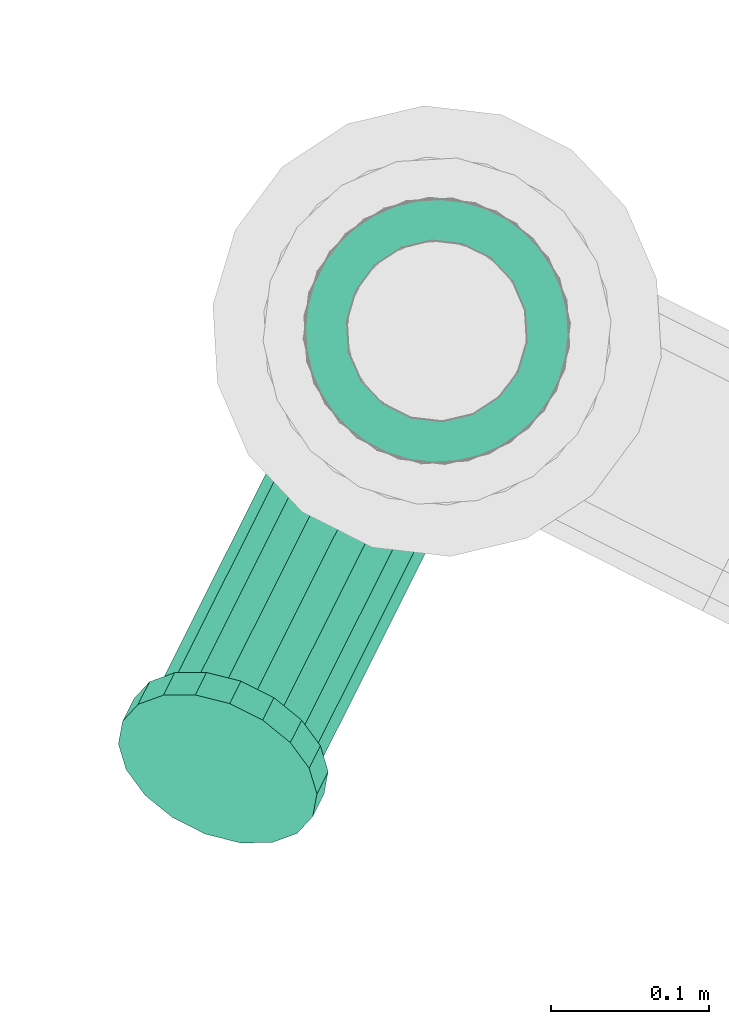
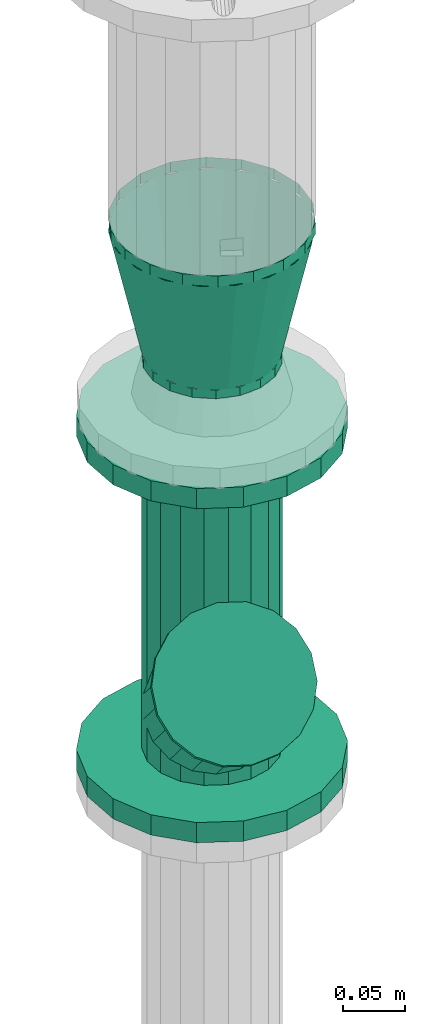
# One storey, part 65 of 152: 1 distribution control element, 1 flow fitting.
"""IFC2X3 building model written with IfcOpenShell, lengths in metres."""

from ifc_helpers import new_model, si_unit, derived_unit, direction, frame, origin, place, context, subcontext, project, spatial, face_set, surface_model, source, transform, mapped, material, type_object, type_shapes, element, save


model = new_model("IFC2X3")

# Units and contexts
model_context = context("Model", 3, precision=5.2338327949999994e-05, world=origin(), true_north=direction((0.0, 1.0)))
body_context = subcontext(model_context, "Body", "Model", "MODEL_VIEW")
ifc_project = project(units=[si_unit("LENGTHUNIT", "METRE"), si_unit("AREAUNIT", "SQUARE_METRE"), si_unit("VOLUMEUNIT", "CUBIC_METRE"), si_unit("MASSUNIT", "GRAM", prefix="KILO"), si_unit("PLANEANGLEUNIT", "RADIAN"), derived_unit("THERMALTRANSMITTANCEUNIT", [(si_unit("MASSUNIT", "GRAM", prefix="KILO"), 1), (si_unit("THERMODYNAMICTEMPERATUREUNIT", "KELVIN"), -1), (si_unit("TIMEUNIT", "SECOND"), -3)])], contexts=[model_context])

# Site, building, storey
site_placement = place(None, frame((0.0, 0.0, 0.0), z_axis=(0.0, 0.0, 1.0), x_axis=(0.8939966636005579, -0.4480736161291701, 0.0)))
site = spatial("IfcSite", under=ifc_project, at=site_placement, Name="Default", CompositionType="ELEMENT")
building_placement = place(site_placement, origin())
building = spatial("IfcBuilding", under=site, at=building_placement, CompositionType="ELEMENT")
storey_placement = place(building_placement, frame((0.0, 0.0, 2.7499999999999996)))
storey = spatial("IfcBuildingStorey", under=building, at=storey_placement, Name="1. Obergeschoss", CompositionType="ELEMENT", Elevation=2.7499999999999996)

# Flow fitting
ifc_material = material(Name="IfcSurfaceStyle #1741")
distribution_element_type_1 = type_object("IfcDistributionElementType", Name="Übergangsstück 307836:Übergangsstück 307836", material=ifc_material)
shared_shape_1 = source(origin(), body_context, "Body", "SurfaceModel", [
    surface_model("IfcFaceBasedSurfaceModel", [(20.35098007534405, 8.394133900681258, 3.915870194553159), (20.370526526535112, 8.397580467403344, 3.915870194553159), (20.370526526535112, 8.397580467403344, 3.924489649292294), (20.35098007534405, 8.394133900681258, 3.924489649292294), (20.387715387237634, 8.407504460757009, 3.915870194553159), (20.387715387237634, 8.407504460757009, 3.924489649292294), (20.40047342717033, 8.42270890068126, 3.915870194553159), (20.40047342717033, 8.42270890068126, 3.924489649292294), (20.407261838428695, 8.441359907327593, 3.915870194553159), (20.407261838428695, 8.441359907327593, 3.924489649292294), (20.407261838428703, 8.461207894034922, 3.915870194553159), (20.407261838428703, 8.461207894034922, 3.924489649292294), (20.40047342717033, 8.479858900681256, 3.915870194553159), (20.40047342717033, 8.479858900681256, 3.924489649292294), (20.387715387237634, 8.49506334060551, 3.915870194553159), (20.387715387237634, 8.49506334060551, 3.924489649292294), (20.370526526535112, 8.504987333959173, 3.915870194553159), (20.370526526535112, 8.504987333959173, 3.924489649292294), (20.35098007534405, 8.508433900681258, 3.915870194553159), (20.35098007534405, 8.508433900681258, 3.924489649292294), (20.33143362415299, 8.504987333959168, 3.915870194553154), (20.33143362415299, 8.504987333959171, 3.9244896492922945), (20.31424476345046, 8.495063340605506, 3.9158701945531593), (20.31424476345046, 8.495063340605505, 3.9244896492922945), (20.30148672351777, 8.479858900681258, 3.915870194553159), (20.30148672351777, 8.479858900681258, 3.924489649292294), (20.2946983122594, 8.461207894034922, 3.915870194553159), (20.2946983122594, 8.461207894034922, 3.924489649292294), (20.2946983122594, 8.441359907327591, 3.915870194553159), (20.2946983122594, 8.441359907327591, 3.924489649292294), (20.301486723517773, 8.42270890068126, 3.915870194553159), (20.301486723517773, 8.42270890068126, 3.924489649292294), (20.31424476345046, 8.407504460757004, 3.915870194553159), (20.31424476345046, 8.407504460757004, 3.924489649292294), (20.33143362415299, 8.39758046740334, 3.915870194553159), (20.33143362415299, 8.39758046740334, 3.924489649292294), (20.408130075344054, 8.45128390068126, 3.9244896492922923), (20.404683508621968, 8.470830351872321, 3.9244896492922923), (20.43005520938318, 8.480064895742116, 4.0454109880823), (20.43513007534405, 8.451283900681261, 4.045410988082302), (20.394759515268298, 8.488019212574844, 3.924489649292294), (20.41544271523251, 8.505374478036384, 4.045410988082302), (20.379555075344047, 8.500777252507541, 3.9244896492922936), (20.393055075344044, 8.52415993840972, 4.045410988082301), (20.36090406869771, 8.507565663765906, 3.924489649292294), (20.365592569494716, 8.534155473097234, 4.045410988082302), (20.341056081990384, 8.507565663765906, 3.924489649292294), (20.33636758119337, 8.534155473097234, 4.045410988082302), (20.32240507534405, 8.500777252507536, 3.9244896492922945), (20.30890507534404, 8.524159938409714, 4.045410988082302), (20.3072006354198, 8.488019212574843, 3.924489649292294), (20.286517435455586, 8.50537447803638, 4.045410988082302), (20.29727664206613, 8.47083035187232, 3.9244896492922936), (20.27190494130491, 8.48006489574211, 4.045410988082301), (20.29383007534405, 8.451283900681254, 3.9244896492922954), (20.266830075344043, 8.451283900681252, 4.0454109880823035), (20.297276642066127, 8.431737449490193, 3.9244896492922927), (20.27190494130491, 8.422502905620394, 4.045410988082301), (20.307200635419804, 8.414548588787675, 3.924489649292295), (20.28651743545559, 8.397193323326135, 4.0454109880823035), (20.32240507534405, 8.401790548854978, 3.924489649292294), (20.30890507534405, 8.378407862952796, 4.045410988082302), (20.341056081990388, 8.395002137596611, 3.924489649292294), (20.336367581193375, 8.368412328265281, 4.045410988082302), (20.36090406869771, 8.39500213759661, 3.924489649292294), (20.36559256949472, 8.36841232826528, 4.045410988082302), (20.379555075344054, 8.401790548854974, 3.9244896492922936), (20.39305507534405, 8.378407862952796, 4.045410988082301), (20.394759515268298, 8.414548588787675, 3.924489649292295), (20.415442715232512, 8.397193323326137, 4.045410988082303), (20.404683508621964, 8.431737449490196, 3.924489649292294), (20.430055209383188, 8.422502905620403, 4.045410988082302), (20.350980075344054, 8.367133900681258, 4.0454109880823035), (20.3797610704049, 8.372208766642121, 4.0454109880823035), (20.3797610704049, 8.372208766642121, 4.055870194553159), (20.350980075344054, 8.367133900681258, 4.055870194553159), (20.405070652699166, 8.3868212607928, 4.0454109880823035), (20.405070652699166, 8.3868212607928, 4.055870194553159), (20.423856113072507, 8.409208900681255, 4.0454109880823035), (20.423856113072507, 8.409208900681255, 4.055870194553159), (20.433851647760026, 8.436671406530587, 4.0454109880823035), (20.433851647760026, 8.436671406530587, 4.055870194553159), (20.433851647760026, 8.465896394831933, 4.0454109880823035), (20.433851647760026, 8.465896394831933, 4.055870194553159), (20.423856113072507, 8.49335890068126, 4.0454109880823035), (20.423856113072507, 8.49335890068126, 4.055870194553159), (20.405070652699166, 8.515746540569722, 4.0454109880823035), (20.405070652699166, 8.515746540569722, 4.055870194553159), (20.3797610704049, 8.530359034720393, 4.0454109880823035), (20.3797610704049, 8.530359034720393, 4.055870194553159), (20.350980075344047, 8.535433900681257, 4.0454109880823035), (20.350980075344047, 8.535433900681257, 4.055870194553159), (20.32219908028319, 8.530359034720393, 4.0454109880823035), (20.32219908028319, 8.530359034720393, 4.055870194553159), (20.29688949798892, 8.515746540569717, 4.0454109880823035), (20.29688949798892, 8.515746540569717, 4.055870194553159), (20.278104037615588, 8.493358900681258, 4.0454109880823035), (20.278104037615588, 8.493358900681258, 4.055870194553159), (20.268108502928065, 8.465896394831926, 4.0454109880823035), (20.268108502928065, 8.465896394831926, 4.055870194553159), (20.268108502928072, 8.436671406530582, 4.0454109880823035), (20.268108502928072, 8.436671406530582, 4.055870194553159), (20.278104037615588, 8.409208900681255, 4.0454109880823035), (20.278104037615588, 8.409208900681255, 4.055870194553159), (20.296889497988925, 8.386821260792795, 4.0454109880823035), (20.296889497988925, 8.386821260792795, 4.055870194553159), (20.322199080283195, 8.372208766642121, 4.0454109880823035), (20.322199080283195, 8.372208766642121, 4.055870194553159)], [face_set([[[0, 1, 2, 3]], [[1, 4, 5, 2]], [[4, 6, 7, 5]], [[6, 8, 9, 7]], [[8, 10, 11, 9]], [[10, 12, 13, 11]], [[12, 14, 15, 13]], [[14, 16, 17, 15]], [[16, 18, 19, 17]], [[18, 20, 21, 19]], [[20, 22, 23, 21]], [[22, 24, 25, 23]], [[24, 26, 27, 25]], [[26, 28, 29, 27]], [[28, 30, 31, 29]], [[30, 32, 33, 31]], [[32, 34, 35, 33]], [[34, 0, 3, 35]], [[36, 37, 38, 39]], [[37, 40, 41, 38]], [[40, 42, 43, 41]], [[42, 44, 45, 43]], [[44, 46, 47, 45]], [[46, 48, 49, 47]], [[48, 50, 51, 49]], [[50, 52, 53, 51]], [[52, 54, 55, 53]], [[54, 56, 57, 55]], [[56, 58, 59, 57]], [[58, 60, 61, 59]], [[60, 62, 63, 61]], [[62, 64, 65, 63]], [[64, 66, 67, 65]], [[66, 68, 69, 67]], [[68, 70, 71, 69]], [[70, 36, 39, 71]], [[72, 73, 74, 75]], [[73, 76, 77, 74]], [[76, 78, 79, 77]], [[78, 80, 81, 79]], [[80, 82, 83, 81]], [[82, 84, 85, 83]], [[84, 86, 87, 85]], [[86, 88, 89, 87]], [[88, 90, 91, 89]], [[90, 92, 93, 91]], [[92, 94, 95, 93]], [[94, 96, 97, 95]], [[96, 98, 99, 97]], [[98, 100, 101, 99]], [[100, 102, 103, 101]], [[102, 104, 105, 103]], [[104, 106, 107, 105]], [[106, 72, 75, 107]]])]),
])
type_shapes(distribution_element_type_1, [shared_shape_1])
flow_fitting_placement = place(storey_placement, frame((0.0, 0.0, -2.7499999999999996)))
element("IfcFlowFitting", 1, at=flow_fitting_placement, inside=storey, type_object=distribution_element_type_1, material=ifc_material, Name="Übergangsstück", ObjectType="Übergangsstück", context=body_context, shape_type="MappedRepresentation", body=[
    mapped(shared_shape_1, transform((0.0, 0.0, 0.0), scale=1.0)),
])

# Distribution control element
distribution_element_type_2 = type_object("IfcDistributionElementType", Name="Zählerpaßstück:Zählerpaßstück", material=ifc_material)
shared_shape_2 = source(origin(), body_context, "Body", "SurfaceModel", [
    surface_model("IfcFaceBasedSurfaceModel", [(20.350980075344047, 8.394133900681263, 3.6892878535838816), (20.33143362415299, 8.397580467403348, 3.6822989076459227), (20.331433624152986, 8.190721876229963, 3.8410270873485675), (20.350980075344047, 8.19282001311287, 3.8437614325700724), (20.31424476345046, 8.407504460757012, 3.662175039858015), (20.31424476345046, 8.184680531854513, 3.8331538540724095), (20.301486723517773, 8.422708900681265, 3.631343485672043), (20.30148672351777, 8.175424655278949, 3.8210913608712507), (20.294698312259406, 8.441359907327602, 3.5935229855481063), (20.294698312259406, 8.164070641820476, 3.8062945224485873), (20.294698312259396, 8.441359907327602, 3.568505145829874), (20.294698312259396, 8.151987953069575, 3.79054805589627), (20.301486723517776, 8.422708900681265, 3.5593074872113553), (20.301486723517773, 8.140633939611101, 3.7757512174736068), (20.314244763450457, 8.407504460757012, 3.5518094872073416), (20.31424476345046, 8.131378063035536, 3.7636887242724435), (20.33143362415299, 8.39758046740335, 3.5469155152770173), (20.331433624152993, 8.125336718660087, 3.7558154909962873), (20.350980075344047, 8.394133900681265, 3.5452158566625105), (20.350980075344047, 8.123238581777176, 3.753081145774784), (20.370526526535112, 8.39758046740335, 3.546915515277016), (20.370526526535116, 8.125336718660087, 3.7558154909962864), (20.387715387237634, 8.407504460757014, 3.551809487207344), (20.387715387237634, 8.131378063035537, 3.7636887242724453), (20.400473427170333, 8.422708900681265, 3.5593074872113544), (20.40047342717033, 8.140633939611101, 3.7757512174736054), (20.407261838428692, 8.441359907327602, 3.5685051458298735), (20.407261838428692, 8.151987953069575, 3.7905480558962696), (20.4072618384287, 8.4413599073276, 3.5935229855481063), (20.407261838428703, 8.164070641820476, 3.806294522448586), (20.400473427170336, 8.422708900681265, 3.631343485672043), (20.40047342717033, 8.175424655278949, 3.8210913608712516), (20.387715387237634, 8.407504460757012, 3.662175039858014), (20.387715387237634, 8.18468053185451, 3.833153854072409), (20.370526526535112, 8.39758046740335, 3.682298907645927), (20.370526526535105, 8.190721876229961, 3.8410270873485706), (20.460980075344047, 8.451283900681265, 3.5138701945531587), (20.454346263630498, 8.488906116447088, 3.5138701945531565), (20.4543462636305, 8.488906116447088, 3.5338701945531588), (20.46098007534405, 8.451283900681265, 3.5338701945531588), (20.43524496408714, 8.521990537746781, 3.5138701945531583), (20.43524496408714, 8.521990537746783, 3.533870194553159), (20.405980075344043, 8.54654669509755, 3.513870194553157), (20.405980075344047, 8.546546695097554, 3.533870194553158), (20.37008137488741, 8.559612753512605, 3.513870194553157), (20.370081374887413, 8.559612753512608, 3.533870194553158), (20.331878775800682, 8.559612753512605, 3.5138701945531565), (20.33187877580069, 8.559612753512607, 3.5338701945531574), (20.295980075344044, 8.54654669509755, 3.513870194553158), (20.295980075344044, 8.546546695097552, 3.5338701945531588), (20.266715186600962, 8.521990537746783, 3.5138701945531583), (20.266715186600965, 8.521990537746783, 3.533870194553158), (20.247613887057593, 8.488906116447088, 3.513870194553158), (20.247613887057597, 8.48890611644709, 3.5338701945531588), (20.240980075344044, 8.451283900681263, 3.513870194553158), (20.240980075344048, 8.451283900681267, 3.5338701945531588), (20.247613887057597, 8.41366168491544, 3.513870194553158), (20.247613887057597, 8.41366168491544, 3.533870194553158), (20.266715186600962, 8.380577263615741, 3.513870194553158), (20.266715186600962, 8.380577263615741, 3.5338701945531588), (20.29598007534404, 8.356021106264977, 3.513870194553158), (20.29598007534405, 8.356021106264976, 3.5338701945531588), (20.33187877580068, 8.34295504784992, 3.5138701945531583), (20.33187877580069, 8.342955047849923, 3.533870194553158), (20.37008137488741, 8.342955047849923, 3.5138701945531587), (20.370081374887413, 8.342955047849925, 3.5338701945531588), (20.405980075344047, 8.35602110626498, 3.513870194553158), (20.405980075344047, 8.356021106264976, 3.5338701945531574), (20.435244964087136, 8.380577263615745, 3.513870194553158), (20.43524496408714, 8.380577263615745, 3.533870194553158), (20.454346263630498, 8.413661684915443, 3.513870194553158), (20.4543462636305, 8.413661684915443, 3.5338701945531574), (20.350980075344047, 8.451283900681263, 3.5138701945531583), (20.350980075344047, 8.451283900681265, 3.533870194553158), (20.40813007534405, 8.451283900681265, 3.5338701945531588), (20.40468350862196, 8.470830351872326, 3.5338701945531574), (20.40468350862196, 8.470830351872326, 3.8438701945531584), (20.40813007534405, 8.451283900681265, 3.8438701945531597), (20.394759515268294, 8.488019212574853, 3.5338701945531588), (20.394759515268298, 8.48801921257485, 3.8438701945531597), (20.37955507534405, 8.500777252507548, 3.5338701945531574), (20.379555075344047, 8.500777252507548, 3.843870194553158), (20.360904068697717, 8.507565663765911, 3.5338701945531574), (20.36090406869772, 8.507565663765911, 3.8438701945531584), (20.341056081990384, 8.507565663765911, 3.533870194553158), (20.341056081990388, 8.507565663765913, 3.8438701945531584), (20.32240507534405, 8.500777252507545, 3.533870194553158), (20.32240507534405, 8.500777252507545, 3.8438701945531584), (20.307200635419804, 8.488019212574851, 3.533870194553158), (20.307200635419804, 8.488019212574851, 3.843870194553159), (20.297276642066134, 8.470830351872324, 3.533870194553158), (20.297276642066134, 8.470830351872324, 3.843870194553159), (20.29383007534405, 8.451283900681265, 3.533870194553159), (20.293830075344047, 8.451283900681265, 3.843870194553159), (20.29727664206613, 8.431737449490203, 3.533870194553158), (20.297276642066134, 8.431737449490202, 3.843870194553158), (20.3072006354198, 8.41454858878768, 3.5338701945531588), (20.307200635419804, 8.41454858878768, 3.8438701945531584), (20.322405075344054, 8.401790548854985, 3.5338701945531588), (20.32240507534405, 8.401790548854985, 3.843870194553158), (20.341056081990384, 8.395002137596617, 3.5338701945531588), (20.341056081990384, 8.395002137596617, 3.8438701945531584), (20.360904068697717, 8.395002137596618, 3.5338701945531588), (20.360904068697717, 8.395002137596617, 3.8438701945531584), (20.379555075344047, 8.401790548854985, 3.5338701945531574), (20.379555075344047, 8.401790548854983, 3.8438701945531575), (20.394759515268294, 8.414548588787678, 3.533870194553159), (20.394759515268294, 8.414548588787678, 3.8438701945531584), (20.404683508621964, 8.431737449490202, 3.5338701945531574), (20.40468350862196, 8.4317374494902, 3.8438701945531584), (20.46098007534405, 8.451283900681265, 3.8438701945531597), (20.4543462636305, 8.48890611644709, 3.8438701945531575), (20.454346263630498, 8.488906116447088, 3.863870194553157), (20.460980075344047, 8.451283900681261, 3.863870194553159), (20.43524496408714, 8.521990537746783, 3.8438701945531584), (20.43524496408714, 8.521990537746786, 3.8638701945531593), (20.405980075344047, 8.546546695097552, 3.843870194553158), (20.405980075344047, 8.546546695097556, 3.863870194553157), (20.370081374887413, 8.559612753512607, 3.843870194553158), (20.370081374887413, 8.559612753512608, 3.863870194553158), (20.331878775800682, 8.559612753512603, 3.8438701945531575), (20.331878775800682, 8.559612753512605, 3.863870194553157), (20.295980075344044, 8.54654669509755, 3.8438701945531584), (20.295980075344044, 8.546546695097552, 3.8638701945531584), (20.266715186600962, 8.521990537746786, 3.8438701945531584), (20.266715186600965, 8.521990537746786, 3.8638701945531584), (20.247613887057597, 8.488906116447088, 3.8438701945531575), (20.247613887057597, 8.48890611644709, 3.863870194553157), (20.240980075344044, 8.451283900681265, 3.8438701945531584), (20.240980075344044, 8.451283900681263, 3.8638701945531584), (20.247613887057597, 8.41366168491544, 3.8438701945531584), (20.24761388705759, 8.41366168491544, 3.863870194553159), (20.266715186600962, 8.380577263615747, 3.8438701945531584), (20.266715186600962, 8.380577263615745, 3.8638701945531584), (20.29598007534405, 8.356021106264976, 3.8438701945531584), (20.295980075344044, 8.356021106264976, 3.8638701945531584), (20.331878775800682, 8.34295504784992, 3.843870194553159), (20.331878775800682, 8.342955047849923, 3.863870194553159), (20.370081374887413, 8.342955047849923, 3.8438701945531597), (20.370081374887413, 8.342955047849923, 3.8638701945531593), (20.405980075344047, 8.356021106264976, 3.8438701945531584), (20.40598007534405, 8.356021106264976, 3.8638701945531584), (20.435244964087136, 8.380577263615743, 3.8438701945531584), (20.43524496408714, 8.380577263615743, 3.863870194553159), (20.4543462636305, 8.41366168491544, 3.8438701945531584), (20.454346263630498, 8.41366168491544, 3.8638701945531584), (20.350980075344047, 8.451283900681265, 3.843870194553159), (20.350980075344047, 8.451283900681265, 3.863870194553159), (20.418130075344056, 8.158029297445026, 3.7984212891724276), (20.414080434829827, 8.172010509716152, 3.8166419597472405), (20.41408043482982, 8.156143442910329, 3.828817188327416), (20.418130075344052, 8.142162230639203, 3.810596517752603), (20.402419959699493, 8.184305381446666, 3.8326649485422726), (20.402419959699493, 8.168438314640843, 3.8448401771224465), (20.38455507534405, 8.19343096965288, 3.8445576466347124), (20.384555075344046, 8.177563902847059, 3.8567328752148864), (20.362640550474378, 8.19828659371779, 3.850885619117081), (20.36264055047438, 8.182419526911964, 3.8630608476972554), (20.339319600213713, 8.198286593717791, 3.8508856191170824), (20.339319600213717, 8.182419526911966, 3.863060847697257), (20.317405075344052, 8.193430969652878, 3.84455764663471), (20.31740507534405, 8.177563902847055, 3.8567328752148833), (20.29954019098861, 8.184305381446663, 3.832664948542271), (20.299540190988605, 8.16843831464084, 3.8448401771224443), (20.287879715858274, 8.17201050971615, 3.816641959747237), (20.287879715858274, 8.156143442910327, 3.8288171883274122), (20.283830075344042, 8.158029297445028, 3.798421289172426), (20.283830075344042, 8.142162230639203, 3.8105965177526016), (20.287879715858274, 8.144048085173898, 3.780200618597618), (20.287879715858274, 8.128181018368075, 3.7923758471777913), (20.29954019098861, 8.131753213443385, 3.764177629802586), (20.29954019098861, 8.11588614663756, 3.7763528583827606), (20.317405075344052, 8.122627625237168, 3.752284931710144), (20.317405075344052, 8.106760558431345, 3.764460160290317), (20.339319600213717, 8.11777200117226, 3.745956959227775), (20.339319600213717, 8.101904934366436, 3.758132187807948), (20.36264055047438, 8.11777200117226, 3.745956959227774), (20.36264055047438, 8.101904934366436, 3.7581321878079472), (20.38455507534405, 8.122627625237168, 3.7522849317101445), (20.38455507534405, 8.106760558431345, 3.7644601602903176), (20.402419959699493, 8.131753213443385, 3.7641776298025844), (20.402419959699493, 8.11588614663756, 3.7763528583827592), (20.41408043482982, 8.144048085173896, 3.780200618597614), (20.41408043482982, 8.128181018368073, 3.7923758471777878), (20.350980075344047, 8.158029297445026, 3.798421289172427), (20.350980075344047, 8.142162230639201, 3.810596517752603)], [face_set([[[0, 1, 2, 3]], [[1, 4, 5, 2]], [[4, 6, 7, 5]], [[6, 8, 9, 7]], [[8, 10, 11, 9]], [[10, 12, 13, 11]], [[12, 14, 15, 13]], [[14, 16, 17, 15]], [[16, 18, 19, 17]], [[18, 20, 21, 19]], [[20, 22, 23, 21]], [[22, 24, 25, 23]], [[24, 26, 27, 25]], [[26, 28, 29, 27]], [[28, 30, 31, 29]], [[30, 32, 33, 31]], [[32, 34, 35, 33]], [[34, 0, 3, 35]], [[36, 37, 38, 39]], [[37, 40, 41, 38]], [[40, 42, 43, 41]], [[42, 44, 45, 43]], [[44, 46, 47, 45]], [[46, 48, 49, 47]], [[48, 50, 51, 49]], [[50, 52, 53, 51]], [[52, 54, 55, 53]], [[54, 56, 57, 55]], [[56, 58, 59, 57]], [[58, 60, 61, 59]], [[60, 62, 63, 61]], [[62, 64, 65, 63]], [[64, 66, 67, 65]], [[66, 68, 69, 67]], [[68, 70, 71, 69]], [[70, 36, 39, 71]], [[72, 37, 36]], [[72, 40, 37]], [[72, 42, 40]], [[72, 44, 42]], [[72, 46, 44]], [[72, 48, 46]], [[72, 50, 48]], [[72, 52, 50]], [[72, 54, 52]], [[72, 56, 54]], [[72, 58, 56]], [[72, 60, 58]], [[72, 62, 60]], [[72, 64, 62]], [[72, 66, 64]], [[72, 68, 66]], [[72, 70, 68]], [[72, 36, 70]], [[73, 71, 39]], [[73, 69, 71]], [[73, 67, 69]], [[73, 65, 67]], [[73, 63, 65]], [[73, 61, 63]], [[73, 59, 61]], [[73, 57, 59]], [[73, 55, 57]], [[73, 53, 55]], [[73, 51, 53]], [[73, 49, 51]], [[73, 47, 49]], [[73, 45, 47]], [[73, 43, 45]], [[73, 41, 43]], [[73, 38, 41]], [[73, 39, 38]], [[74, 75, 76, 77]], [[75, 78, 79, 76]], [[78, 80, 81, 79]], [[80, 82, 83, 81]], [[82, 84, 85, 83]], [[84, 86, 87, 85]], [[86, 88, 89, 87]], [[88, 90, 91, 89]], [[90, 92, 93, 91]], [[92, 94, 95, 93]], [[94, 96, 97, 95]], [[96, 98, 99, 97]], [[98, 100, 101, 99]], [[100, 102, 103, 101]], [[102, 104, 105, 103]], [[104, 106, 107, 105]], [[106, 108, 109, 107]], [[108, 74, 77, 109]], [[110, 111, 112, 113]], [[111, 114, 115, 112]], [[114, 116, 117, 115]], [[116, 118, 119, 117]], [[118, 120, 121, 119]], [[120, 122, 123, 121]], [[122, 124, 125, 123]], [[124, 126, 127, 125]], [[126, 128, 129, 127]], [[128, 130, 131, 129]], [[130, 132, 133, 131]], [[132, 134, 135, 133]], [[134, 136, 137, 135]], [[136, 138, 139, 137]], [[138, 140, 141, 139]], [[140, 142, 143, 141]], [[142, 144, 145, 143]], [[144, 110, 113, 145]], [[146, 111, 110]], [[146, 114, 111]], [[146, 116, 114]], [[146, 118, 116]], [[146, 120, 118]], [[146, 122, 120]], [[146, 124, 122]], [[146, 126, 124]], [[146, 128, 126]], [[146, 130, 128]], [[146, 132, 130]], [[146, 134, 132]], [[146, 136, 134]], [[146, 138, 136]], [[146, 140, 138]], [[146, 142, 140]], [[146, 144, 142]], [[146, 110, 144]], [[147, 145, 113]], [[147, 143, 145]], [[147, 141, 143]], [[147, 139, 141]], [[147, 137, 139]], [[147, 135, 137]], [[147, 133, 135]], [[147, 131, 133]], [[147, 129, 131]], [[147, 127, 129]], [[147, 125, 127]], [[147, 123, 125]], [[147, 121, 123]], [[147, 119, 121]], [[147, 117, 119]], [[147, 115, 117]], [[147, 112, 115]], [[147, 113, 112]], [[148, 149, 150, 151]], [[149, 152, 153, 150]], [[152, 154, 155, 153]], [[154, 156, 157, 155]], [[156, 158, 159, 157]], [[158, 160, 161, 159]], [[160, 162, 163, 161]], [[162, 164, 165, 163]], [[164, 166, 167, 165]], [[166, 168, 169, 167]], [[168, 170, 171, 169]], [[170, 172, 173, 171]], [[172, 174, 175, 173]], [[174, 176, 177, 175]], [[176, 178, 179, 177]], [[178, 180, 181, 179]], [[180, 182, 183, 181]], [[182, 148, 151, 183]], [[184, 149, 148]], [[184, 152, 149]], [[184, 154, 152]], [[184, 156, 154]], [[184, 158, 156]], [[184, 160, 158]], [[184, 162, 160]], [[184, 164, 162]], [[184, 166, 164]], [[184, 168, 166]], [[184, 170, 168]], [[184, 172, 170]], [[184, 174, 172]], [[184, 176, 174]], [[184, 178, 176]], [[184, 180, 178]], [[184, 182, 180]], [[184, 148, 182]], [[185, 183, 151]], [[185, 181, 183]], [[185, 179, 181]], [[185, 177, 179]], [[185, 175, 177]], [[185, 173, 175]], [[185, 171, 173]], [[185, 169, 171]], [[185, 167, 169]], [[185, 165, 167]], [[185, 163, 165]], [[185, 161, 163]], [[185, 159, 161]], [[185, 157, 159]], [[185, 155, 157]], [[185, 153, 155]], [[185, 150, 153]], [[185, 151, 150]]])]),
])
type_shapes(distribution_element_type_2, [shared_shape_2])
distribution_control_element_placement = place(storey_placement, frame((0.0, 0.0, -2.7499999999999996)))
element("IfcDistributionControlElement", 2, at=distribution_control_element_placement, inside=storey, type_object=distribution_element_type_2, material=ifc_material, Name="Zählerpaßstück", ObjectType="Zählerpaßstück", context=body_context, shape_type="MappedRepresentation", body=[
    mapped(shared_shape_2, transform((0.0, 0.0, 0.0), scale=1.0)),
])

save(model, "model.ifc")
